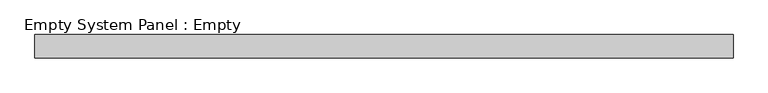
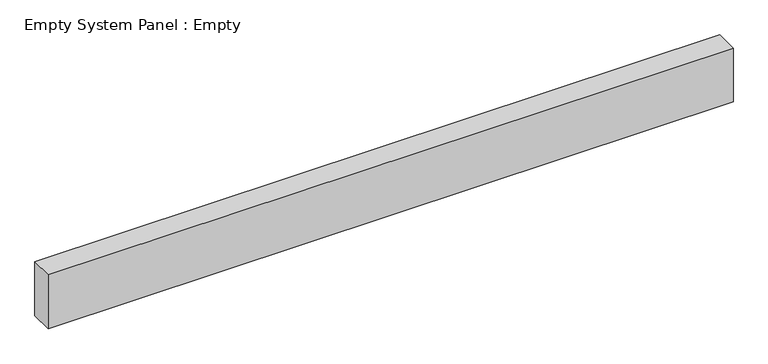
"""IFC4 building model written with IfcOpenShell, lengths in millimetres: plate geometry, Empty System Panel : Empty."""

import ifcopenshell
import ifcopenshell.guid

model = None  # the IFC model being written
_history = None  # IfcOwnerHistory: only IFC2X3 demands one
_inside = {}  # id of a spatial element -> (the spatial element, [elements in it])
_under = {}  # id of a project, library or spatial element -> (it, [spatial elements below it])
_declared = {}  # id of a project -> (the project, [libraries it declares])
_typed = {}  # id of a type object -> (the type object, [elements of that type])
_made_of = {}  # id of a material, layer set ... -> (it, [elements and type objects made of it])


def new_model(schema):
    """Start an empty IFC model of exactly this schema.

    Asked for "IFC4X3", IfcOpenShell would pick the latest addendum, in which some entities
    have other attributes; the version numbers below select the first issue.
    IFC2X3 requires an IfcOwnerHistory on every rooted entity: one is made here for all.
    """
    global model, _history
    if schema == "IFC4X3":
        model = ifcopenshell.file(schema_version=(4, 3, 0, 0))
    else:
        model = ifcopenshell.file(schema=schema)
    _inside.clear()
    _under.clear()
    _declared.clear()
    _typed.clear()
    _made_of.clear()
    _history = None
    if model.schema == "IFC2X3":
        org = make("IfcOrganization", Name="unknown")
        user = make(
            "IfcPersonAndOrganization",
            ThePerson=make("IfcPerson", FamilyName="unknown"),
            TheOrganization=org,
        )
        app = make(
            "IfcApplication",
            ApplicationDeveloper=org,
            Version="unknown",
            ApplicationFullName="unknown",
            ApplicationIdentifier="unknown",
        )
        _history = make(
            "IfcOwnerHistory",
            OwningUser=user,
            OwningApplication=app,
            ChangeAction="ADDED",
            CreationDate=0,
        )
    return model


def make(cls, **values):
    """One entity of the class cls with the attributes given. An attribute that is None is left unset."""
    return model.create_entity(
        cls, **{name: value for name, value in values.items() if value is not None}
    )


def rooted(cls, **values):
    """An entity with a GlobalId (a new one), such as an element, a storey or a relation."""
    return make(cls, GlobalId=ifcopenshell.guid.new(), OwnerHistory=_history, **values)


def si_unit(unit_type, name, prefix=None):
    """IfcSIUnit, for example si_unit("LENGTHUNIT", "METRE", prefix="MILLI")."""
    return make("IfcSIUnit", UnitType=unit_type, Prefix=prefix, Name=name)


def assignment(units):
    """IfcUnitAssignment: the units of a project."""
    return None if units is None else make("IfcUnitAssignment", Units=units)


def point(xyz):
    """IfcCartesianPoint."""
    return None if xyz is None else make("IfcCartesianPoint", Coordinates=xyz)


def direction(xyz):
    """IfcDirection."""
    return None if xyz is None else make("IfcDirection", DirectionRatios=xyz)


def frame(location, z_axis=None, x_axis=None):
    """IfcAxis2Placement3D, a coordinate frame: its origin and axes. An axis left out is left unset."""
    return make(
        "IfcAxis2Placement3D",
        Location=point(location),
        Axis=direction(z_axis),
        RefDirection=direction(x_axis),
    )


def origin():
    """The frame at (0, 0, 0) with its axes left unset."""
    return frame((0.0, 0.0, 0.0))


def origin_with_axes():
    """The frame at (0, 0, 0) with the z axis (0, 0, 1) and the x axis (1, 0, 0) written out."""
    return frame((0.0, 0.0, 0.0), z_axis=(0.0, 0.0, 1.0), x_axis=(1.0, 0.0, 0.0))


def place(relative_to, where):
    """IfcLocalPlacement: puts the frame where relative to a parent placement (None: the world)."""
    return make(
        "IfcLocalPlacement", PlacementRelTo=relative_to, RelativePlacement=where
    )


def context(
    kind, dimensions, precision=None, world=None, true_north=None, identifier=None
):
    """IfcGeometricRepresentationContext, for example the 3D "Model" context."""
    return make(
        "IfcGeometricRepresentationContext",
        ContextIdentifier=identifier,
        ContextType=kind,
        CoordinateSpaceDimension=dimensions,
        Precision=precision,
        WorldCoordinateSystem=world,
        TrueNorth=true_north,
    )


def project(units=None, contexts=None):
    """IfcProject with its units and contexts."""
    return rooted(
        "IfcProject",
        Name="project",
        RepresentationContexts=contexts,
        UnitsInContext=assignment(units),
    )


def spatial(cls, under=None, at=None, **own):
    """A site, building, storey or space (cls), placed at a placement, below another one or the project."""
    s = rooted(cls, ObjectPlacement=at, **own)
    if under is not None:
        _under.setdefault(under.id(), (under, []))[1].append(s)
    return s


def polyline(points):
    """IfcPolyline through the points."""
    return make("IfcPolyline", Points=[point(p) for p in points])


def outline(outer, holes=None, kind="AREA"):
    """IfcArbitraryClosedProfileDef: a profile drawn as a closed curve; with holes, ...WithVoids."""
    if holes is None:
        return make("IfcArbitraryClosedProfileDef", ProfileType=kind, OuterCurve=outer)
    return make(
        "IfcArbitraryProfileDefWithVoids",
        ProfileType=kind,
        OuterCurve=outer,
        InnerCurves=holes,
    )


def extrude(swept, where, along, depth):
    """IfcExtrudedAreaSolid: the profile swept, set in the frame where, extruded along a direction by depth."""
    return make(
        "IfcExtrudedAreaSolid",
        SweptArea=swept,
        Position=where,
        ExtrudedDirection=direction(along),
        Depth=depth,
    )


def shape(context_of_items, identifier, shape_type, items):
    """IfcShapeRepresentation: the items that make up one representation, for example the "Body"."""
    return make(
        "IfcShapeRepresentation",
        ContextOfItems=context_of_items,
        RepresentationIdentifier=identifier,
        RepresentationType=shape_type,
        Items=items,
    )


def source(mapping_origin, context_of_items, identifier, shape_type, items):
    """IfcRepresentationMap: a shape defined once, which mapped items show again and again."""
    return make(
        "IfcRepresentationMap",
        MappingOrigin=mapping_origin,
        MappedRepresentation=shape(context_of_items, identifier, shape_type, items),
    )


def transform(
    local_origin,
    x_axis=None,
    y_axis=None,
    z_axis=None,
    scale=None,
    scale2=None,
    scale3=None,
    uniform=True,
):
    """IfcCartesianTransformationOperator3D, or its non-uniform kind. x_axis, y_axis, z_axis: its Axis1, 2, 3."""
    if uniform:
        return make(
            "IfcCartesianTransformationOperator3D",
            Axis1=direction(x_axis),
            Axis2=direction(y_axis),
            LocalOrigin=point(local_origin),
            Scale=scale,
            Axis3=direction(z_axis),
        )
    return make(
        "IfcCartesianTransformationOperator3DnonUniform",
        Axis1=direction(x_axis),
        Axis2=direction(y_axis),
        LocalOrigin=point(local_origin),
        Scale=scale,
        Axis3=direction(z_axis),
        Scale2=scale2,
        Scale3=scale3,
    )


def mapped(mapping_source, mapping_target):
    """IfcMappedItem: shows the shape of a source again, moved by a transform."""
    return make(
        "IfcMappedItem", MappingSource=mapping_source, MappingTarget=mapping_target
    )


def made_of(thing, what):
    """Note that an element or type object is made of a material, layer set ...; save() writes the relation."""
    if what is not None:
        _made_of.setdefault(what.id(), (what, []))[1].append(thing)
    return thing


def element(
    cls,
    number,
    at=None,
    inside=None,
    cuts=None,
    type_object=None,
    material=None,
    context=None,
    identifier="Body",
    shape_type=None,
    held_by="IfcProductDefinitionShape",
    body=None,
    shapes=None,
    **own,
):
    """One element of the class cls, such as IfcWall. Its Tag is "e" and its number.

    at: its placement. inside: the storey or other place that contains it. cuts: it is an
    opening in that element (IfcRelVoidsElement). A single representation is given by context,
    identifier, shape_type and body (its items); several are given by shapes. held_by: the class
    of the entity that holds the representations. save() writes the other relations.
    """
    e = rooted(cls, Tag="e%d" % number, ObjectPlacement=at, **own)
    if body is not None:
        shapes = [shape(context, identifier, shape_type, body)]
    if shapes is not None:
        e.Representation = make(held_by, Representations=shapes)
    if inside is not None:
        _inside.setdefault(inside.id(), (inside, []))[1].append(e)
    if cuts is not None:
        rooted(
            "IfcRelVoidsElement", RelatingBuildingElement=cuts, RelatedOpeningElement=e
        )
    if type_object is not None:
        _typed.setdefault(type_object.id(), (type_object, []))[1].append(e)
    return made_of(e, material)


def aggregate(whole, parts):
    """IfcRelAggregates: a whole, such as a stair, and the parts it consists of."""
    return rooted("IfcRelAggregates", RelatingObject=whole, RelatedObjects=parts)


def save(model, path):
    """Write the relations noted so far, then the file.

    IfcRelAggregates (storeys below a building ...), IfcRelContainedInSpatialStructure (elements
    in a storey), IfcRelDefinesByType, IfcRelAssociatesMaterial and IfcRelDeclares: one each for
    every whole, place, type object, material and project.
    """
    for whole, parts in _under.values():
        aggregate(whole, parts)
    for where, things in _inside.values():
        rooted(
            "IfcRelContainedInSpatialStructure",
            RelatedElements=things,
            RelatingStructure=where,
        )
    for kind, things in _typed.values():
        rooted("IfcRelDefinesByType", RelatedObjects=things, RelatingType=kind)
    for what, things in _made_of.values():
        rooted("IfcRelAssociatesMaterial", RelatedObjects=things, RelatingMaterial=what)
    for by, libraries in _declared.values():
        rooted("IfcRelDeclares", RelatingContext=by, RelatedDefinitions=libraries)
    model.write(path)


def empty_system_panel_empty_759a0c1d(model_context):
    return source(origin(), model_context, "Body", "SweptSolid", [
        extrude(outline(polyline([(1500.0, -50.0), (-1500.0, -50.0), (-1500.0, 50.0), (1500.0, 50.0), (1500.0, -50.0)])), origin_with_axes(), (0.0, 0.0, 1.0), 250.0),
    ])


if __name__ == "__main__":
    model = new_model("IFC4")
    model_context = context("Model", 3, world=origin())
    ifc_project = project(units=[si_unit("LENGTHUNIT", "METRE", prefix="MILLI")], contexts=[model_context])
    site = spatial("IfcSite", under=ifc_project)
    building = spatial("IfcBuilding", under=site)
    placement = place(None, origin())
    empty_system_panel_empty_shape = empty_system_panel_empty_759a0c1d(model_context)
    element("IfcPlate", 1, ObjectType="Empty System Panel : Empty", at=placement, inside=building, context=model_context, shape_type="MappedRepresentation", body=[
        mapped(empty_system_panel_empty_shape, transform((0.0, 0.0, 0.0), x_axis=(1.0, 0.0, 0.0), y_axis=(0.0, 1.0, 0.0), z_axis=(0.0, 0.0, 1.0))),
    ])
    save(model, "model.ifc")
